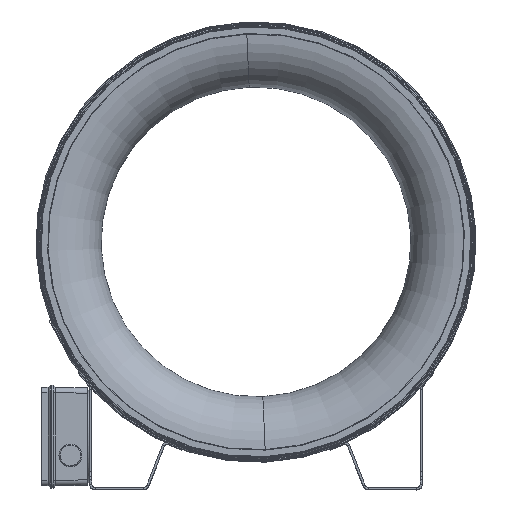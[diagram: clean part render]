
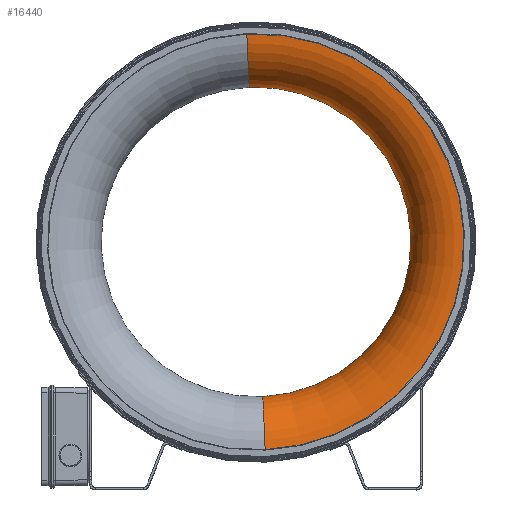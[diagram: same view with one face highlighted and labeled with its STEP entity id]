
A CAD part, top view. The second image highlights one B-rep face of the part: STEP entity #16440.
In plain terms, the highlighted toroidal (fillet/blend) face has major radius 192.5 mm and minor radius 49.5 mm.
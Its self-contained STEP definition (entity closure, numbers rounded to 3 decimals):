
#125 = DIRECTION ( 'NONE',  ( 0., 0., -1. ) ) ;
#266 = DIRECTION ( 'NONE',  ( 0.044, -0.999, 0. ) ) ;
#270 = CARTESIAN_POINT ( 'NONE',  ( 0., 228.5, 138. ) ) ;
#2545 = CIRCLE ( 'NONE', #3472, 143. ) ;
#2581 = CIRCLE ( 'NONE', #3484, 49.5 ) ;
#2600 = CIRCLE ( 'NONE', #3492, 49.5 ) ;
#3472 = AXIS2_PLACEMENT_3D ( 'NONE', #23859, #23861, #23862 ) ;
#3484 = AXIS2_PLACEMENT_3D ( 'NONE', #24059, #24061, #24063 ) ;
#3492 = AXIS2_PLACEMENT_3D ( 'NONE', #24199, #24201, #24202 ) ;
#3611 = AXIS2_PLACEMENT_3D ( 'NONE', #12145, #12146, #12147 ) ;
#7387 = ORIENTED_EDGE ( 'NONE', *, *, #21734, .T. ) ;
#7438 = ORIENTED_EDGE ( 'NONE', *, *, #16876, .F. ) ;
#12145 = CARTESIAN_POINT ( 'NONE',  ( 0., 228.5, 187.497 ) ) ;
#12146 = DIRECTION ( 'NONE',  ( 0., 0., 1. ) ) ;
#12147 = DIRECTION ( 'NONE',  ( 0.044, -0.999, 0. ) ) ;
#12648 = CIRCLE ( 'NONE', #3611, 192. ) ;
#16440 = ADVANCED_FACE ( 'NONE', ( #28855 ), #28862, .T. ) ;
#16474 = ORIENTED_EDGE ( 'NONE', *, *, #16850, .T. ) ;
#16850 = EDGE_CURVE ( 'NONE', #26300, #26252, #2545, .T. ) ;
#16876 = EDGE_CURVE ( 'NONE', #26300, #26344, #2581, .T. ) ;
#16892 = EDGE_CURVE ( 'NONE', #26252, #17677, #2600, .T. ) ;
#17550 = AXIS2_PLACEMENT_3D ( 'NONE', #270, #125, #266 ) ;
#17677 = VERTEX_POINT ( 'NONE', #25268 ) ;
#17994 = EDGE_LOOP ( 'NONE', ( #7438, #16474, #28620, #7387 ) ) ;
#21734 = EDGE_CURVE ( 'NONE', #17677, #26344, #12648, .T. ) ;
#23859 = CARTESIAN_POINT ( 'NONE',  ( 0., 228.5, 138. ) ) ;
#23861 = DIRECTION ( 'NONE',  ( 0., 0., -1. ) ) ;
#23862 = DIRECTION ( 'NONE',  ( 0.044, -0.999, 0. ) ) ;
#24059 = CARTESIAN_POINT ( 'NONE',  ( -8.497, 420.812, 138. ) ) ;
#24061 = DIRECTION ( 'NONE',  ( -0.999, -0.044, 0. ) ) ;
#24063 = DIRECTION ( 'NONE',  ( 0.044, -0.999, 0. ) ) ;
#24199 = CARTESIAN_POINT ( 'NONE',  ( 8.497, 36.188, 138. ) ) ;
#24201 = DIRECTION ( 'NONE',  ( 0.999, 0.044, 0. ) ) ;
#24202 = DIRECTION ( 'NONE',  ( -0.044, 0.999, 0. ) ) ;
#25268 = CARTESIAN_POINT ( 'NONE',  ( 8.475, 36.687, 187.497 ) ) ;
#26252 = VERTEX_POINT ( 'NONE', #29727 ) ;
#26300 = VERTEX_POINT ( 'NONE', #29775 ) ;
#26344 = VERTEX_POINT ( 'NONE', #29819 ) ;
#28620 = ORIENTED_EDGE ( 'NONE', *, *, #16892, .T. ) ;
#28855 = FACE_OUTER_BOUND ( 'NONE', #17994, .T. ) ;
#28862 = TOROIDAL_SURFACE ( 'NONE', #17550, 192.5, 49.5 ) ;
#29727 = CARTESIAN_POINT ( 'NONE',  ( 6.312, 85.639, 138. ) ) ;
#29775 = CARTESIAN_POINT ( 'NONE',  ( -6.312, 371.361, 138. ) ) ;
#29819 = CARTESIAN_POINT ( 'NONE',  ( -8.475, 420.313, 187.497 ) ) ;
